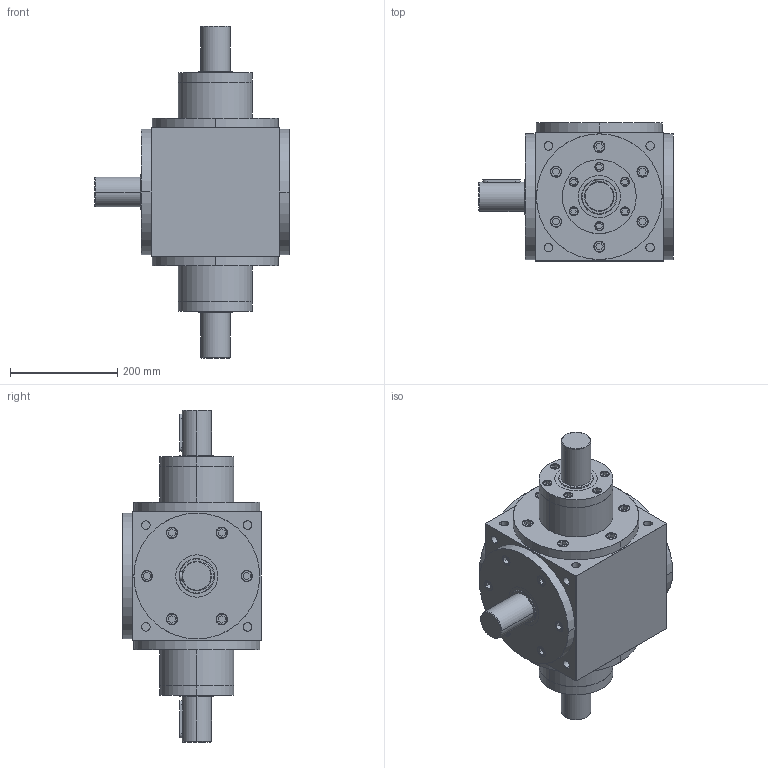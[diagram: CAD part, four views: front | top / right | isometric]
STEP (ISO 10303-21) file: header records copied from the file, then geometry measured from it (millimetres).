
FILE_DESCRIPTION (( 'STEP AP203' ), '1' );
FILE_NAME ('VSAF24-1：1-H.step', '2018-03-19T05:30:59', ( 'Windows 用户' ), ( '' ), 'SwSTEP 2.0', 'SolidWorks 2016', '' );
FILE_SCHEMA (( 'CONFIG_CONTROL_DESIGN' ));
Length unit declared in the file: millimetre
Products named in the file (1): VSAF24-1ㄩ1-H
Bounding box: 363 x 258 x 620 mm (x, y, z)
Volume: 20772451.4 mm3; surface area: 632043 mm2
Topology: 2 solids, 2 shells, 885 faces, 1975 edges, 1230 vertices
Faces by surface type: plane 435, cylinder 336, torus 94, cone 12, sphere 8
Entity records: 24736 total; most frequent: CARTESIAN_POINT 4717, DIRECTION 4367, ORIENTED_EDGE 3934, EDGE_CURVE 1967, AXIS2_PLACEMENT_3D 1648, VERTEX_POINT 1230, LINE 1071, VECTOR 1071
